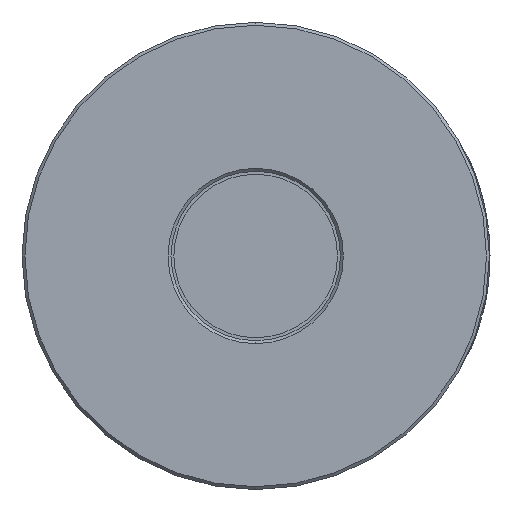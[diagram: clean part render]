
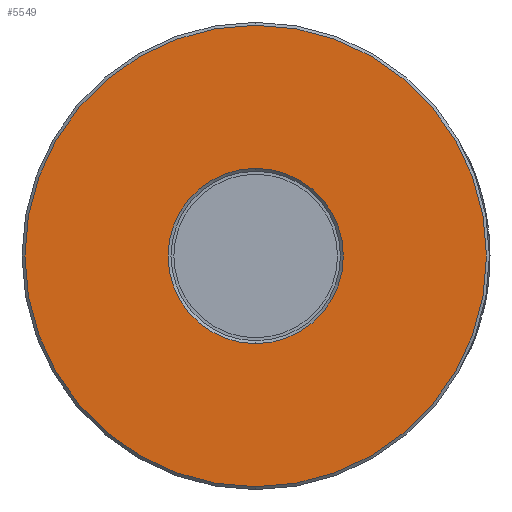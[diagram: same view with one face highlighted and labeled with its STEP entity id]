
A CAD part, front view. The second image highlights one B-rep face of the part: STEP entity #5549.
In plain terms, the highlighted planar face has unit normal (0, -1, 0).
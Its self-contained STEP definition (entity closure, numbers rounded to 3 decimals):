
#907 = VERTEX_POINT ( 'NONE', #4229 ) ;
#1766 = CARTESIAN_POINT ( 'NONE',  ( 0., 0., -15. ) ) ;
#1865 = CIRCLE ( 'NONE', #12621, 15. ) ;
#3399 = AXIS2_PLACEMENT_3D ( 'NONE', #6005, #19642, #7986 ) ;
#3465 = CARTESIAN_POINT ( 'NONE',  ( 0., 0., 0. ) ) ;
#4229 = CARTESIAN_POINT ( 'NONE',  ( 0., 0., -39.5 ) ) ;
#4537 = CARTESIAN_POINT ( 'NONE',  ( 0., 0., 15. ) ) ;
#4847 = CARTESIAN_POINT ( 'NONE',  ( 0., 0., 0. ) ) ;
#5031 = CARTESIAN_POINT ( 'NONE',  ( 0., 0., 0. ) ) ;
#5375 = FACE_OUTER_BOUND ( 'NONE', #5738, .T. ) ;
#5452 = DIRECTION ( 'NONE',  ( 0., 0., 1. ) ) ;
#5549 = ADVANCED_FACE ( 'NONE', ( #5375, #10599 ), #9874, .F. ) ;
#5738 = EDGE_LOOP ( 'NONE', ( #20847, #14463 ) ) ;
#6005 = CARTESIAN_POINT ( 'NONE',  ( 0., 0., 0. ) ) ;
#6867 = DIRECTION ( 'NONE',  ( 0., 0., 1. ) ) ;
#7026 = DIRECTION ( 'NONE',  ( 0., 0., 1. ) ) ;
#7986 = DIRECTION ( 'NONE',  ( 0., 0., 1. ) ) ;
#8221 = AXIS2_PLACEMENT_3D ( 'NONE', #3465, #17135, #5452 ) ;
#8633 = CIRCLE ( 'NONE', #8221, 39.5 ) ;
#9109 = VERTEX_POINT ( 'NONE', #4537 ) ;
#9422 = VERTEX_POINT ( 'NONE', #1766 ) ;
#9530 = CARTESIAN_POINT ( 'NONE',  ( 0., 0., 0. ) ) ;
#9625 = AXIS2_PLACEMENT_3D ( 'NONE', #4847, #18486, #6867 ) ;
#9874 = PLANE ( 'NONE',  #3399 ) ;
#9903 = EDGE_CURVE ( 'NONE', #9422, #9109, #14997, .T. ) ;
#10599 = FACE_BOUND ( 'NONE', #18201, .T. ) ;
#11473 = DIRECTION ( 'NONE',  ( 0., 0., 1. ) ) ;
#12621 = AXIS2_PLACEMENT_3D ( 'NONE', #5031, #18665, #7026 ) ;
#14463 = ORIENTED_EDGE ( 'NONE', *, *, #17246, .T. ) ;
#14997 = CIRCLE ( 'NONE', #20967, 15. ) ;
#15061 = CIRCLE ( 'NONE', #9625, 39.5 ) ;
#17135 = DIRECTION ( 'NONE',  ( 0., -1., 0. ) ) ;
#17246 = EDGE_CURVE ( 'NONE', #907, #22610, #15061, .T. ) ;
#17985 = ORIENTED_EDGE ( 'NONE', *, *, #20602, .T. ) ;
#18201 = EDGE_LOOP ( 'NONE', ( #24049, #17985 ) ) ;
#18486 = DIRECTION ( 'NONE',  ( 0., -1., 0. ) ) ;
#18540 = CARTESIAN_POINT ( 'NONE',  ( 0., 0., 39.5 ) ) ;
#18665 = DIRECTION ( 'NONE',  ( 0., 1., 0. ) ) ;
#19642 = DIRECTION ( 'NONE',  ( 0., 1., 0. ) ) ;
#20602 = EDGE_CURVE ( 'NONE', #9109, #9422, #1865, .T. ) ;
#20755 = EDGE_CURVE ( 'NONE', #22610, #907, #8633, .T. ) ;
#20847 = ORIENTED_EDGE ( 'NONE', *, *, #20755, .T. ) ;
#20967 = AXIS2_PLACEMENT_3D ( 'NONE', #9530, #23136, #11473 ) ;
#22610 = VERTEX_POINT ( 'NONE', #18540 ) ;
#23136 = DIRECTION ( 'NONE',  ( 0., 1., 0. ) ) ;
#24049 = ORIENTED_EDGE ( 'NONE', *, *, #9903, .T. ) ;
